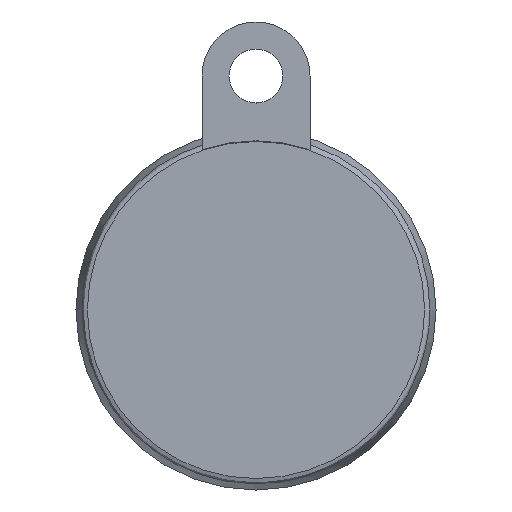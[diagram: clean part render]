
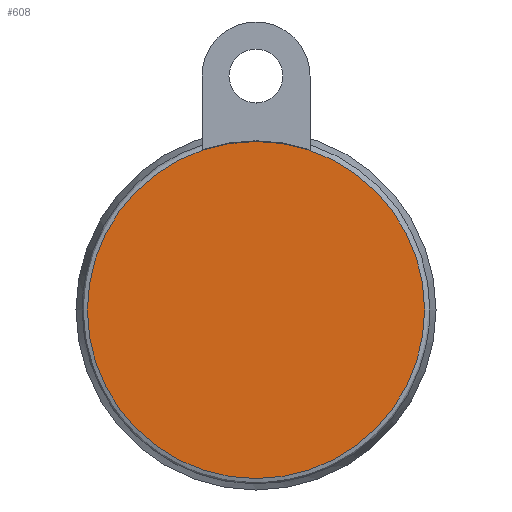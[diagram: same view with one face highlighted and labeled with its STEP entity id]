
A CAD part, left-side view. The second image highlights one B-rep face of the part: STEP entity #608.
In plain terms, the highlighted planar face has unit normal (-1, 0, 0).
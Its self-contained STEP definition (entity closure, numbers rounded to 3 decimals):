
#530=CARTESIAN_POINT('',(-457.707,-428.109,-93.416));
#531=DIRECTION('',(-1.0,0.0,0.0));
#532=DIRECTION('',(0.0,-1.0,0.0));
#533=AXIS2_PLACEMENT_3D('',#530,#531,#532);
#534=PLANE('',#533);
#535=CARTESIAN_POINT('',(-457.707,-534.938,-33.416));
#536=VERTEX_POINT('',#535);
#537=CARTESIAN_POINT('',(-457.707,-441.281,-33.416));
#538=VERTEX_POINT('',#537);
#539=CARTESIAN_POINT('',(-457.707,-534.938,-33.416));
#540=CARTESIAN_POINT('',(-457.707,-534.938,-31.789));
#541=CARTESIAN_POINT('',(-457.707,-534.767,-28.514));
#542=CARTESIAN_POINT('',(-457.707,-534.021,-23.801));
#543=CARTESIAN_POINT('',(-457.707,-532.809,-19.196));
#544=CARTESIAN_POINT('',(-457.707,-531.173,-14.813));
#545=CARTESIAN_POINT('',(-457.707,-529.049,-10.515));
#546=CARTESIAN_POINT('',(-457.707,-526.482,-6.426));
#547=CARTESIAN_POINT('',(-457.707,-523.343,-2.422));
#548=CARTESIAN_POINT('',(-457.707,-519.024,1.977));
#549=CARTESIAN_POINT('',(-457.707,-513.637,6.076));
#550=CARTESIAN_POINT('',(-457.707,-506.866,9.71));
#551=CARTESIAN_POINT('',(-457.707,-500.475,11.922));
#552=CARTESIAN_POINT('',(-457.707,-493.436,13.268));
#553=CARTESIAN_POINT('',(-457.707,-487.118,13.57));
#554=CARTESIAN_POINT('',(-457.707,-481.023,12.971));
#555=CARTESIAN_POINT('',(-457.707,-476.141,11.937));
#556=CARTESIAN_POINT('',(-457.707,-471.666,10.515));
#557=CARTESIAN_POINT('',(-457.707,-467.376,8.661));
#558=CARTESIAN_POINT('',(-457.707,-463.119,6.289));
#559=CARTESIAN_POINT('',(-457.707,-458.918,3.333));
#560=CARTESIAN_POINT('',(-457.707,-454.732,-0.399));
#561=CARTESIAN_POINT('',(-457.707,-451.047,-4.61));
#562=CARTESIAN_POINT('',(-457.707,-448.054,-8.991));
#563=CARTESIAN_POINT('',(-457.707,-445.171,-14.342));
#564=CARTESIAN_POINT('',(-457.707,-442.953,-20.33));
#565=CARTESIAN_POINT('',(-457.707,-441.575,-27.085));
#566=CARTESIAN_POINT('',(-457.707,-441.284,-31.229));
#567=CARTESIAN_POINT('',(-457.707,-441.281,-33.368));
#568=CARTESIAN_POINT('',(-457.707,-441.281,-33.416));
#569=B_SPLINE_CURVE_WITH_KNOTS('',3,(#539,#540,#541,#542,#543,#544,#545,#546,#547,#548,#549,#550,#551,#552,#553,#554,#555,#556,#557,#558,#559,#560,#561,#562,#563,#564,#565,#566,#567,#568),.UNSPECIFIED.,.F.,.U.,(4,1,1,1,1,1,1,1,1,1,1,1,1,1,1,1,1,1,1,1,1,1,1,1,1,1,1,4),(0.0,4.884,9.82,14.298,19.152,23.836,28.664,33.613,39.081,47.126,53.846,62.074,67.337,75.312,80.982,85.676,90.265,95.05,99.677,104.867,110.439,116.471,121.619,126.331,134.683,140.7,146.973,147.117),.UNSPECIFIED.);
#570=EDGE_CURVE('',#536,#538,#569,.T.);
#571=ORIENTED_EDGE('',*,*,#570,.T.);
#572=CARTESIAN_POINT('',(-457.707,-441.281,-33.416));
#573=CARTESIAN_POINT('',(-457.707,-441.281,-35.389));
#574=CARTESIAN_POINT('',(-457.707,-441.504,-38.915));
#575=CARTESIAN_POINT('',(-457.707,-442.388,-43.881));
#576=CARTESIAN_POINT('',(-457.707,-443.661,-48.405));
#577=CARTESIAN_POINT('',(-457.707,-445.365,-52.735));
#578=CARTESIAN_POINT('',(-457.707,-447.531,-56.944));
#579=CARTESIAN_POINT('',(-457.707,-450.204,-61.073));
#580=CARTESIAN_POINT('',(-457.707,-453.623,-65.268));
#581=CARTESIAN_POINT('',(-457.707,-457.749,-69.229));
#582=CARTESIAN_POINT('',(-457.707,-462.226,-72.564));
#583=CARTESIAN_POINT('',(-457.707,-467.21,-75.456));
#584=CARTESIAN_POINT('',(-457.707,-473.217,-78.012));
#585=CARTESIAN_POINT('',(-457.707,-479.407,-79.575));
#586=CARTESIAN_POINT('',(-457.707,-485.005,-80.213));
#587=CARTESIAN_POINT('',(-457.707,-489.499,-80.295));
#588=CARTESIAN_POINT('',(-457.707,-493.928,-79.954));
#589=CARTESIAN_POINT('',(-457.707,-498.365,-79.181));
#590=CARTESIAN_POINT('',(-457.707,-502.818,-77.958));
#591=CARTESIAN_POINT('',(-457.707,-507.164,-76.28));
#592=CARTESIAN_POINT('',(-457.707,-511.449,-74.107));
#593=CARTESIAN_POINT('',(-457.707,-515.548,-71.475));
#594=CARTESIAN_POINT('',(-457.707,-519.78,-68.066));
#595=CARTESIAN_POINT('',(-457.707,-523.734,-64.004));
#596=CARTESIAN_POINT('',(-457.707,-527.216,-59.376));
#597=CARTESIAN_POINT('',(-457.707,-529.967,-54.642));
#598=CARTESIAN_POINT('',(-457.707,-532.569,-48.68));
#599=CARTESIAN_POINT('',(-457.707,-534.197,-42.608));
#600=CARTESIAN_POINT('',(-457.707,-534.85,-37.096));
#601=CARTESIAN_POINT('',(-457.707,-534.938,-34.46));
#602=CARTESIAN_POINT('',(-457.707,-534.938,-33.416));
#603=B_SPLINE_CURVE_WITH_KNOTS('',3,(#572,#573,#574,#575,#576,#577,#578,#579,#580,#581,#582,#583,#584,#585,#586,#587,#588,#589,#590,#591,#592,#593,#594,#595,#596,#597,#598,#599,#600,#601,#602),.UNSPECIFIED.,.F.,.U.,(4,1,1,1,1,1,1,1,1,1,1,1,1,1,1,1,1,1,1,1,1,1,1,1,1,1,1,1,4),(147.117,153.037,157.694,162.23,167.119,171.634,176.417,181.855,187.843,193.541,198.571,205.103,213.078,217.655,221.987,226.548,230.967,235.483,240.385,244.923,249.879,254.978,261.202,266.846,272.323,277.601,286.329,291.1,294.234),.UNSPECIFIED.);
#604=EDGE_CURVE('',#538,#536,#603,.T.);
#605=ORIENTED_EDGE('',*,*,#604,.T.);
#606=EDGE_LOOP('',(#571,#605));
#607=FACE_OUTER_BOUND('',#606,.T.);
#608=ADVANCED_FACE('',(#607),#534,.T.);
